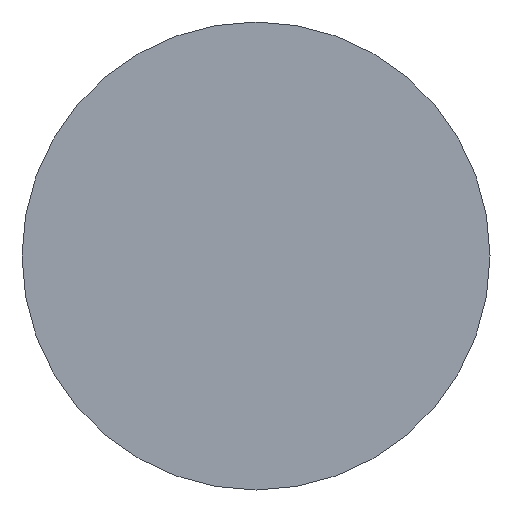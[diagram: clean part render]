
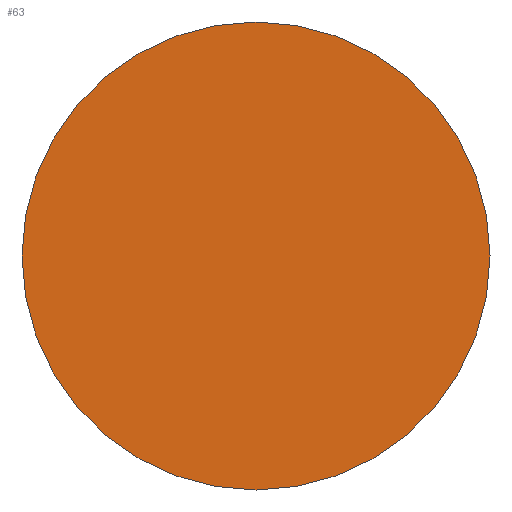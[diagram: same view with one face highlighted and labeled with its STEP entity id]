
A CAD part, front view. The second image highlights one B-rep face of the part: STEP entity #63.
In plain terms, the highlighted planar face has unit normal (0, -1, 0).
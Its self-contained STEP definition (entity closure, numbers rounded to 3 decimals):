
#49=FACE_OUTER_BOUND('',#51,.T.);
#51=EDGE_LOOP('',(#58));
#53=CIRCLE('',#89,20.);
#54=VERTEX_POINT('',#141);
#56=EDGE_CURVE('',#54,#54,#53,.T.);
#58=ORIENTED_EDGE('',*,*,#56,.F.);
#62=PLANE('',#88);
#63=ADVANCED_FACE('',(#49),#62,.T.);
#88=AXIS2_PLACEMENT_3D('',#140,#106,#107);
#89=AXIS2_PLACEMENT_3D('',#142,#108,#109);
#106=DIRECTION('center_axis',(0.,-1.,0.));
#107=DIRECTION('ref_axis',(0.,0.,-1.));
#108=DIRECTION('center_axis',(0.,1.,0.));
#109=DIRECTION('ref_axis',(1.,0.,0.));
#140=CARTESIAN_POINT('Origin',(0.,0.,-20.));
#141=CARTESIAN_POINT('',(0.,0.,20.));
#142=CARTESIAN_POINT('Origin',(0.,0.,0.));
